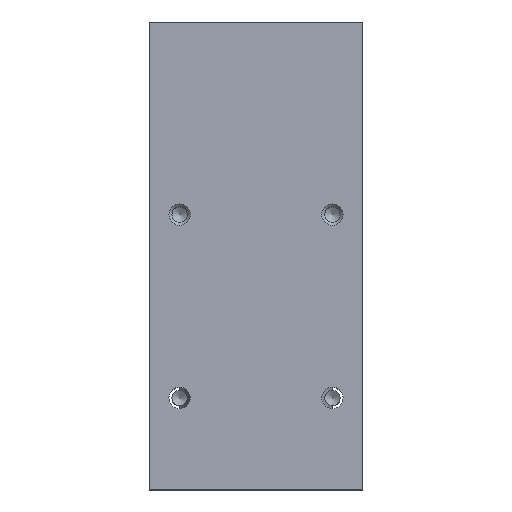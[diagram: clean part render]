
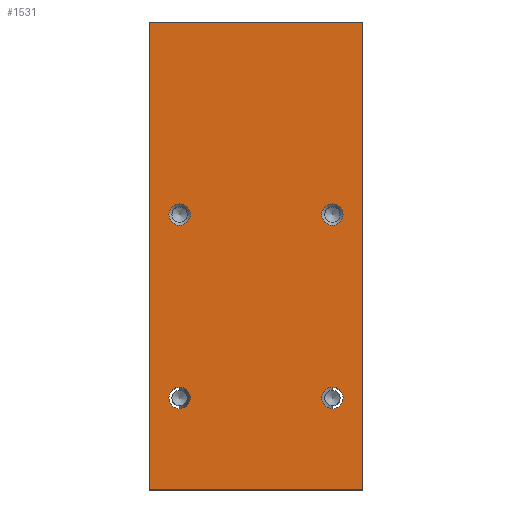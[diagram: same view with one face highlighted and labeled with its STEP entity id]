
A CAD part, top view. The second image highlights one B-rep face of the part: STEP entity #1531.
In plain terms, the highlighted planar face has unit normal (0, 0, 1).
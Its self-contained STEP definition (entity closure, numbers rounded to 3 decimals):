
#56=FACE_BOUND('',#198,.T.);
#57=FACE_BOUND('',#199,.T.);
#58=FACE_BOUND('',#200,.T.);
#59=FACE_BOUND('',#201,.T.);
#78=PLANE('',#1681);
#109=FACE_OUTER_BOUND('',#197,.T.);
#197=EDGE_LOOP('',(#1075,#1076,#1077,#1078));
#198=EDGE_LOOP('',(#1079));
#199=EDGE_LOOP('',(#1080));
#200=EDGE_LOOP('',(#1081));
#201=EDGE_LOOP('',(#1082));
#286=LINE('',#2396,#390);
#317=LINE('',#2482,#421);
#318=LINE('',#2484,#422);
#319=LINE('',#2485,#423);
#390=VECTOR('',#1925,1000.);
#421=VECTOR('',#1996,1000.);
#422=VECTOR('',#1997,1000.);
#423=VECTOR('',#1998,1000.);
#533=CIRCLE('',#1682,1.75);
#534=CIRCLE('',#1683,1.75);
#535=CIRCLE('',#1684,1.75);
#536=CIRCLE('',#1685,1.75);
#628=VERTEX_POINT('',#2392);
#630=VERTEX_POINT('',#2395);
#665=VERTEX_POINT('',#2481);
#666=VERTEX_POINT('',#2483);
#667=VERTEX_POINT('',#2486);
#668=VERTEX_POINT('',#2488);
#669=VERTEX_POINT('',#2490);
#670=VERTEX_POINT('',#2492);
#793=EDGE_CURVE('',#628,#630,#286,.T.);
#836=EDGE_CURVE('',#628,#665,#317,.T.);
#837=EDGE_CURVE('',#666,#665,#318,.T.);
#838=EDGE_CURVE('',#630,#666,#319,.T.);
#839=EDGE_CURVE('',#667,#667,#533,.F.);
#840=EDGE_CURVE('',#668,#668,#534,.F.);
#841=EDGE_CURVE('',#669,#669,#535,.F.);
#842=EDGE_CURVE('',#670,#670,#536,.F.);
#1075=ORIENTED_EDGE('',*,*,#793,.F.);
#1076=ORIENTED_EDGE('',*,*,#836,.T.);
#1077=ORIENTED_EDGE('',*,*,#837,.F.);
#1078=ORIENTED_EDGE('',*,*,#838,.F.);
#1079=ORIENTED_EDGE('',*,*,#839,.T.);
#1080=ORIENTED_EDGE('',*,*,#840,.T.);
#1081=ORIENTED_EDGE('',*,*,#841,.T.);
#1082=ORIENTED_EDGE('',*,*,#842,.T.);
#1531=ADVANCED_FACE('',(#109,#56,#57,#58,#59),#78,.T.);
#1681=AXIS2_PLACEMENT_3D('',#2480,#1994,#1995);
#1682=AXIS2_PLACEMENT_3D('',#2487,#1999,#2000);
#1683=AXIS2_PLACEMENT_3D('',#2489,#2001,#2002);
#1684=AXIS2_PLACEMENT_3D('',#2491,#2003,#2004);
#1685=AXIS2_PLACEMENT_3D('',#2493,#2005,#2006);
#1925=DIRECTION('',(1.,0.,0.));
#1994=DIRECTION('center_axis',(0.,0.,
1.));
#1995=DIRECTION('ref_axis',(-1.,0.,0.));
#1996=DIRECTION('',(0.,-1.,0.));
#1997=DIRECTION('',(-1.,0.,0.));
#1998=DIRECTION('',(0.,-1.,0.));
#1999=DIRECTION('center_axis',(0.,0.,
1.));
#2000=DIRECTION('ref_axis',(0.,-1.,0.));
#2001=DIRECTION('center_axis',(0.,0.,
1.));
#2002=DIRECTION('ref_axis',(0.,-1.,0.));
#2003=DIRECTION('center_axis',(0.,0.,
1.));
#2004=DIRECTION('ref_axis',(0.,-1.,0.));
#2005=DIRECTION('center_axis',(0.,0.,
1.));
#2006=DIRECTION('ref_axis',(0.,-1.,0.));
#2392=CARTESIAN_POINT('',(388.899,-75.988,35.347));
#2395=CARTESIAN_POINT('',(423.899,-75.988,35.347));
#2396=CARTESIAN_POINT('',(388.899,-75.988,35.347));
#2480=CARTESIAN_POINT('Origin',(423.899,-75.988,35.347));
#2481=CARTESIAN_POINT('',(388.899,-152.488,35.347));
#2482=CARTESIAN_POINT('',(388.899,-75.988,35.347));
#2483=CARTESIAN_POINT('',(423.899,-152.488,35.347));
#2484=CARTESIAN_POINT('',(423.899,-152.488,35.347));
#2485=CARTESIAN_POINT('',(423.899,-75.988,35.347));
#2486=CARTESIAN_POINT('',(417.149,-137.488,35.347));
#2487=CARTESIAN_POINT('Origin',(418.899,-137.488,35.347));
#2488=CARTESIAN_POINT('',(417.149,-107.488,35.347));
#2489=CARTESIAN_POINT('Origin',(418.899,-107.488,35.347));
#2490=CARTESIAN_POINT('',(392.149,-107.488,35.347));
#2491=CARTESIAN_POINT('Origin',(393.899,-107.488,35.347));
#2492=CARTESIAN_POINT('',(392.149,-137.488,35.347));
#2493=CARTESIAN_POINT('Origin',(393.899,-137.488,35.347));
